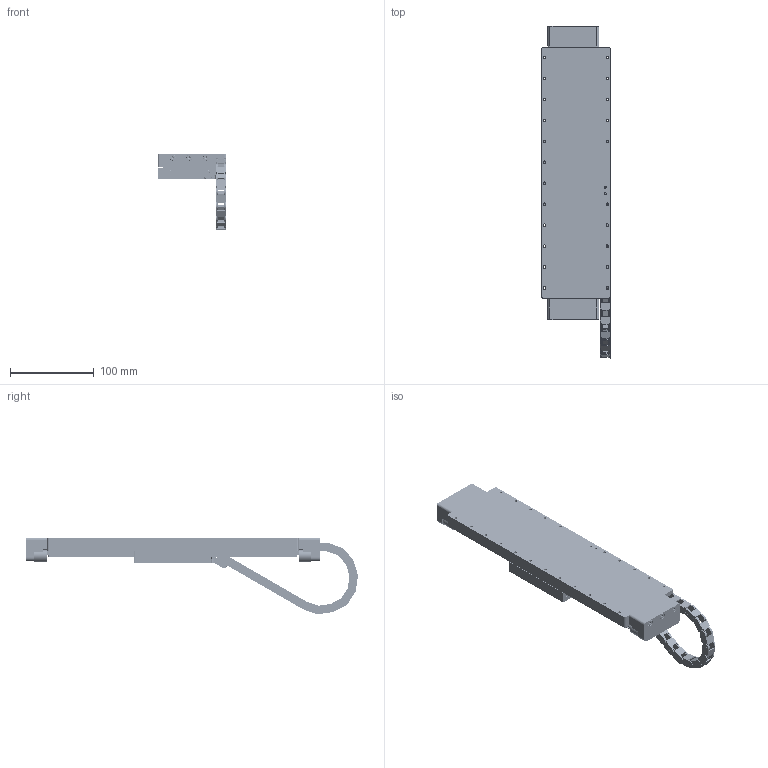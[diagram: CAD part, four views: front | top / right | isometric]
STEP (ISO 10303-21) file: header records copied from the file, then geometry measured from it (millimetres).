
FILE_DESCRIPTION (( 'STEP AP214' ), '1' );
FILE_NAME ('MLL-82300.STEP', '2023-11-02T07:24:13', ( 'Name' ), ( 'SmarAct GmbH' ), 'SwSTEP 2.0', 'SolidWorks 2021', '' );
FILE_SCHEMA (( 'AUTOMOTIVE_DESIGN' ));
Length unit declared in the file: millimetre
Products named in the file (13): 10006933_00_Parent; 10011848_00_Parent; ISO 7046-1 - M3 x 4 - 4N-A2-PH_ISO 7046-1 - M3 x 4 - 4N-A2-PH; ISO 4762 M4 x 25 - 22.9N-A2_ISO 4762 M4 x 25 - 22.9N-A2; 10014159_00_Parent; MLL-82300; 10011851_00_Parent; 10014134_EX; 10014150_00_Parent; ISO 4762 M3 x 5 - 3.5N-A2_ISO 4762 M3 x 5 - 3.5N-A2; 10011847_EX; 10006925_00_Parent; ISO 4762 M2 x 4 - 2.8N-A2_ISO 4762 M2 x 4 - 2.8N-A2
Assembly tree (74 placements, depth 2):
  MLL-82300
    10014134_EX
    10014150_00_Parent  x2
    10006933_00_Parent  x4
    10011848_00_Parent  x2
    10006925_00_Parent  x4
    10011847_EX
    10011851_00_Parent
    10014159_00_Parent
    ISO 4762 M3 x 5 - 3.5N-A2_ISO 4762 M3 x 5 - 3.5N-A2  x46
    ISO 4762 M4 x 25 - 22.9N-A2_ISO 4762 M4 x 25 - 22.9N-A2  x6
    ISO 4762 M2 x 4 - 2.8N-A2_ISO 4762 M2 x 4 - 2.8N-A2  x2
    ISO 7046-1 - M3 x 4 - 4N-A2-PH_ISO 7046-1 - M3 x 4 - 4N-A2-PH  x4
Bounding box: 82.15 x 395.84 x 91.01 mm (x, y, z)
Volume: 582990.4 mm3; surface area: 204280.9 mm2
Topology: 98 solids, 98 shells, 3927 faces, 9562 edges, 5911 vertices
Faces by surface type: plane 1884, cylinder 1345, cone 474, torus 224
Entity records: 72290 total; most frequent: DIRECTION 10877, CARTESIAN_POINT 10314, ORIENTED_EDGE 9884, EDGE_CURVE 4942, AXIS2_PLACEMENT_3D 3959, VERTEX_POINT 3246, VECTOR 2959, LINE 2959
